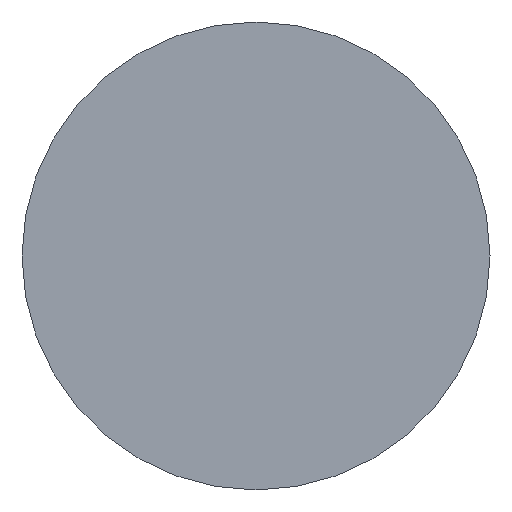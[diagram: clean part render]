
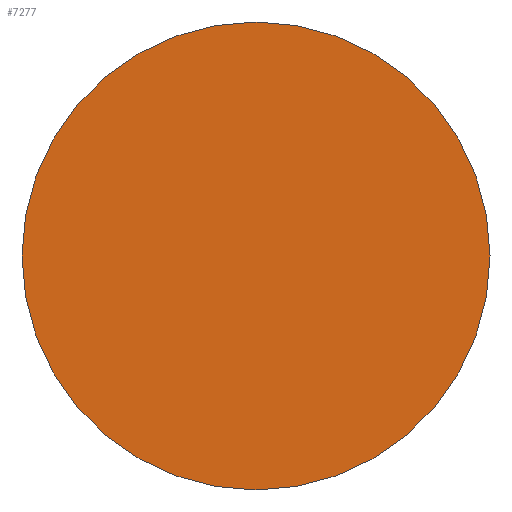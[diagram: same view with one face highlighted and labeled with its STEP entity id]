
A CAD part, top view. The second image highlights one B-rep face of the part: STEP entity #7277.
In plain terms, the highlighted planar face has unit normal (0, 0, 1).
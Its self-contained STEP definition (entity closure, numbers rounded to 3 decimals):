
#845 = ORIENTED_EDGE ( 'NONE', *, *, #11323, .F. ) ;
#867 = CIRCLE ( 'NONE', #9524, 17.5 ) ;
#1921 = CARTESIAN_POINT ( 'NONE',  ( 17.5, 0., 70. ) ) ;
#2285 = CARTESIAN_POINT ( 'NONE',  ( 0., 0., 70. ) ) ;
#2448 = CARTESIAN_POINT ( 'NONE',  ( -17.5, 0., 70. ) ) ;
#3224 = VERTEX_POINT ( 'NONE', #2448 ) ;
#3867 = DIRECTION ( 'NONE',  ( 0., 0., -1. ) ) ;
#4270 = EDGE_LOOP ( 'NONE', ( #845 ) ) ;
#5564 = PLANE ( 'NONE',  #7825 ) ;
#5813 = DIRECTION ( 'NONE',  ( 0., 0., -1. ) ) ;
#7277 = ADVANCED_FACE ( 'NONE', ( #10213 ), #5564, .F. ) ;
#7794 = DIRECTION ( 'NONE',  ( -1., 0., 0. ) ) ;
#7825 = AXIS2_PLACEMENT_3D ( 'NONE', #1921, #3867, #11043 ) ;
#9524 = AXIS2_PLACEMENT_3D ( 'NONE', #2285, #5813, #7794 ) ;
#10213 = FACE_OUTER_BOUND ( 'NONE', #4270, .T. ) ;
#11043 = DIRECTION ( 'NONE',  ( -1., 0., 0. ) ) ;
#11323 = EDGE_CURVE ( 'NONE', #3224, #3224, #867, .T. ) ;
